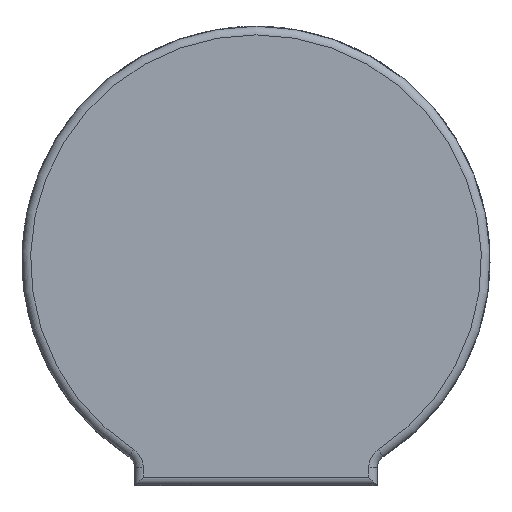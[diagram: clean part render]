
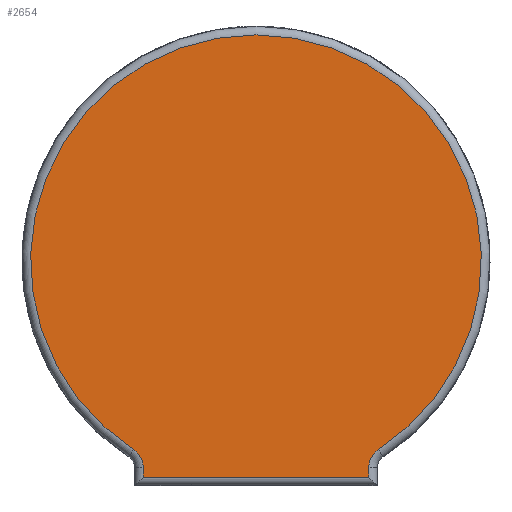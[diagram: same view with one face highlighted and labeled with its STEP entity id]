
A CAD part, front view. The second image highlights one B-rep face of the part: STEP entity #2654.
In plain terms, the highlighted planar face has unit normal (0, -1, 0).
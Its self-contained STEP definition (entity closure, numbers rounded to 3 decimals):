
#72 = CYLINDRICAL_SURFACE('',#73,1.);
#73 = AXIS2_PLACEMENT_3D('',#74,#75,#76);
#74 = CARTESIAN_POINT('',(-13.,-55.,-23.917));
#75 = DIRECTION('',(-0.,-0.,-1.));
#76 = DIRECTION('',(0.,-1.,0.));
#214 = TOROIDAL_SURFACE('',#215,2.5,1.);
#215 = AXIS2_PLACEMENT_3D('',#216,#217,#218);
#216 = CARTESIAN_POINT('',(-15.5,-55.,-23.917));
#217 = DIRECTION('',(-0.,-1.,-0.));
#218 = DIRECTION('',(0.544,-0.,0.839));
#321 = VERTEX_POINT('',#322);
#322 = CARTESIAN_POINT('',(-13.,-56.,-23.917));
#344 = VERTEX_POINT('',#345);
#345 = CARTESIAN_POINT('',(-13.,-56.,-25.));
#365 = CYLINDRICAL_SURFACE('',#366,1.);
#366 = AXIS2_PLACEMENT_3D('',#367,#368,#369);
#367 = CARTESIAN_POINT('',(-14.,-55.,-25.));
#368 = DIRECTION('',(1.,0.,0.));
#369 = DIRECTION('',(0.,-1.,0.));
#382 = EDGE_CURVE('',#321,#344,#383,.T.);
#383 = SURFACE_CURVE('',#384,(#388,#395),.PCURVE_S1.);
#384 = LINE('',#385,#386);
#385 = CARTESIAN_POINT('',(-13.,-56.,-23.917));
#386 = VECTOR('',#387,1.);
#387 = DIRECTION('',(-0.,-0.,-1.));
#388 = PCURVE('',#72,#389);
#389 = DEFINITIONAL_REPRESENTATION('',(#390),#394);
#390 = LINE('',#391,#392);
#391 = CARTESIAN_POINT('',(0.,0.));
#392 = VECTOR('',#393,1.);
#393 = DIRECTION('',(0.,1.));
#394 = ( GEOMETRIC_REPRESENTATION_CONTEXT(2) 
PARAMETRIC_REPRESENTATION_CONTEXT() REPRESENTATION_CONTEXT('2D SPACE',''
  ) );
#395 = PCURVE('',#396,#401);
#396 = PLANE('',#397);
#397 = AXIS2_PLACEMENT_3D('',#398,#399,#400);
#398 = CARTESIAN_POINT('',(-14.,-56.,-26.));
#399 = DIRECTION('',(0.,1.,0.));
#400 = DIRECTION('',(0.,0.,1.));
#401 = DEFINITIONAL_REPRESENTATION('',(#402),#406);
#402 = LINE('',#403,#404);
#403 = CARTESIAN_POINT('',(2.083,1.));
#404 = VECTOR('',#405,1.);
#405 = DIRECTION('',(-1.,-0.));
#406 = ( GEOMETRIC_REPRESENTATION_CONTEXT(2) 
PARAMETRIC_REPRESENTATION_CONTEXT() REPRESENTATION_CONTEXT('2D SPACE',''
  ) );
#1439 = VERTEX_POINT('',#1440);
#1440 = CARTESIAN_POINT('',(-14.14,-56.,-21.819));
#1454 = TOROIDAL_SURFACE('',#1455,26.,1.);
#1455 = AXIS2_PLACEMENT_3D('',#1456,#1457,#1458);
#1456 = CARTESIAN_POINT('',(0.,-55.,0.));
#1457 = DIRECTION('',(0.,1.,0.));
#1458 = DIRECTION('',(0.544,0.,-0.839));
#1465 = EDGE_CURVE('',#1439,#321,#1466,.T.);
#1466 = SURFACE_CURVE('',#1467,(#1472,#1479),.PCURVE_S1.);
#1467 = CIRCLE('',#1468,2.5);
#1468 = AXIS2_PLACEMENT_3D('',#1469,#1470,#1471);
#1469 = CARTESIAN_POINT('',(-15.5,-56.,-23.917));
#1470 = DIRECTION('',(0.,1.,0.));
#1471 = DIRECTION('',(0.544,-0.,0.839));
#1472 = PCURVE('',#214,#1473);
#1473 = DEFINITIONAL_REPRESENTATION('',(#1474),#1478);
#1474 = LINE('',#1475,#1476);
#1475 = CARTESIAN_POINT('',(-0.,1.571));
#1476 = VECTOR('',#1477,1.);
#1477 = DIRECTION('',(-1.,0.));
#1478 = ( GEOMETRIC_REPRESENTATION_CONTEXT(2) 
PARAMETRIC_REPRESENTATION_CONTEXT() REPRESENTATION_CONTEXT('2D SPACE',''
  ) );
#1479 = PCURVE('',#396,#1480);
#1480 = DEFINITIONAL_REPRESENTATION('',(#1481),#1485);
#1481 = CIRCLE('',#1482,2.5);
#1482 = AXIS2_PLACEMENT_2D('',#1483,#1484);
#1483 = CARTESIAN_POINT('',(2.083,-1.5));
#1484 = DIRECTION('',(0.839,0.544));
#1485 = ( GEOMETRIC_REPRESENTATION_CONTEXT(2) 
PARAMETRIC_REPRESENTATION_CONTEXT() REPRESENTATION_CONTEXT('2D SPACE',''
  ) );
#2654 = ADVANCED_FACE('',(#2655),#396,.F.);
#2655 = FACE_BOUND('',#2656,.F.);
#2656 = EDGE_LOOP('',(#2657,#2687,#2708,#2709,#2710,#2738));
#2657 = ORIENTED_EDGE('',*,*,#2658,.F.);
#2658 = EDGE_CURVE('',#2659,#2661,#2663,.T.);
#2659 = VERTEX_POINT('',#2660);
#2660 = CARTESIAN_POINT('',(13.,-56.,-25.));
#2661 = VERTEX_POINT('',#2662);
#2662 = CARTESIAN_POINT('',(13.,-56.,-23.917));
#2663 = SURFACE_CURVE('',#2664,(#2668,#2675),.PCURVE_S1.);
#2664 = LINE('',#2665,#2666);
#2665 = CARTESIAN_POINT('',(13.,-56.,-26.));
#2666 = VECTOR('',#2667,1.);
#2667 = DIRECTION('',(0.,0.,1.));
#2668 = PCURVE('',#396,#2669);
#2669 = DEFINITIONAL_REPRESENTATION('',(#2670),#2674);
#2670 = LINE('',#2671,#2672);
#2671 = CARTESIAN_POINT('',(0.,27.));
#2672 = VECTOR('',#2673,1.);
#2673 = DIRECTION('',(1.,0.));
#2674 = ( GEOMETRIC_REPRESENTATION_CONTEXT(2) 
PARAMETRIC_REPRESENTATION_CONTEXT() REPRESENTATION_CONTEXT('2D SPACE',''
  ) );
#2675 = PCURVE('',#2676,#2681);
#2676 = CYLINDRICAL_SURFACE('',#2677,1.);
#2677 = AXIS2_PLACEMENT_3D('',#2678,#2679,#2680);
#2678 = CARTESIAN_POINT('',(13.,-55.,-26.));
#2679 = DIRECTION('',(0.,0.,1.));
#2680 = DIRECTION('',(0.,-1.,0.));
#2681 = DEFINITIONAL_REPRESENTATION('',(#2682),#2686);
#2682 = LINE('',#2683,#2684);
#2683 = CARTESIAN_POINT('',(0.,0.));
#2684 = VECTOR('',#2685,1.);
#2685 = DIRECTION('',(0.,1.));
#2686 = ( GEOMETRIC_REPRESENTATION_CONTEXT(2) 
PARAMETRIC_REPRESENTATION_CONTEXT() REPRESENTATION_CONTEXT('2D SPACE',''
  ) );
#2687 = ORIENTED_EDGE('',*,*,#2688,.F.);
#2688 = EDGE_CURVE('',#344,#2659,#2689,.T.);
#2689 = SURFACE_CURVE('',#2690,(#2694,#2701),.PCURVE_S1.);
#2690 = LINE('',#2691,#2692);
#2691 = CARTESIAN_POINT('',(-14.,-56.,-25.));
#2692 = VECTOR('',#2693,1.);
#2693 = DIRECTION('',(1.,0.,0.));
#2694 = PCURVE('',#396,#2695);
#2695 = DEFINITIONAL_REPRESENTATION('',(#2696),#2700);
#2696 = LINE('',#2697,#2698);
#2697 = CARTESIAN_POINT('',(1.,0.));
#2698 = VECTOR('',#2699,1.);
#2699 = DIRECTION('',(0.,1.));
#2700 = ( GEOMETRIC_REPRESENTATION_CONTEXT(2) 
PARAMETRIC_REPRESENTATION_CONTEXT() REPRESENTATION_CONTEXT('2D SPACE',''
  ) );
#2701 = PCURVE('',#365,#2702);
#2702 = DEFINITIONAL_REPRESENTATION('',(#2703),#2707);
#2703 = LINE('',#2704,#2705);
#2704 = CARTESIAN_POINT('',(0.,0.));
#2705 = VECTOR('',#2706,1.);
#2706 = DIRECTION('',(0.,1.));
#2707 = ( GEOMETRIC_REPRESENTATION_CONTEXT(2) 
PARAMETRIC_REPRESENTATION_CONTEXT() REPRESENTATION_CONTEXT('2D SPACE',''
  ) );
#2708 = ORIENTED_EDGE('',*,*,#382,.F.);
#2709 = ORIENTED_EDGE('',*,*,#1465,.F.);
#2710 = ORIENTED_EDGE('',*,*,#2711,.F.);
#2711 = EDGE_CURVE('',#2712,#1439,#2714,.T.);
#2712 = VERTEX_POINT('',#2713);
#2713 = CARTESIAN_POINT('',(14.14,-56.,-21.819));
#2714 = SURFACE_CURVE('',#2715,(#2720,#2731),.PCURVE_S1.);
#2715 = CIRCLE('',#2716,26.);
#2716 = AXIS2_PLACEMENT_3D('',#2717,#2718,#2719);
#2717 = CARTESIAN_POINT('',(0.,-56.,0.));
#2718 = DIRECTION('',(0.,-1.,-0.));
#2719 = DIRECTION('',(0.544,0.,-0.839));
#2720 = PCURVE('',#396,#2721);
#2721 = DEFINITIONAL_REPRESENTATION('',(#2722),#2730);
#2722 = ( BOUNDED_CURVE() B_SPLINE_CURVE(2,(#2723,#2724,#2725,#2726,
#2727,#2728,#2729),.UNSPECIFIED.,.T.,.F.) B_SPLINE_CURVE_WITH_KNOTS((1,2
    ,2,2,2,1),(-2.094,0.,2.094,4.189,
6.283,8.378),.UNSPECIFIED.) CURVE() 
GEOMETRIC_REPRESENTATION_ITEM() RATIONAL_B_SPLINE_CURVE((1.,0.5,1.,0.5,
1.,0.5,1.)) REPRESENTATION_ITEM('') );
#2723 = CARTESIAN_POINT('',(4.181,28.14));
#2724 = CARTESIAN_POINT('',(28.673,65.931));
#2725 = CARTESIAN_POINT('',(49.155,25.825));
#2726 = CARTESIAN_POINT('',(69.637,-14.281));
#2727 = CARTESIAN_POINT('',(24.663,-11.966));
#2728 = CARTESIAN_POINT('',(-20.31,-9.651));
#2729 = CARTESIAN_POINT('',(4.181,28.14));
#2730 = ( GEOMETRIC_REPRESENTATION_CONTEXT(2) 
PARAMETRIC_REPRESENTATION_CONTEXT() REPRESENTATION_CONTEXT('2D SPACE',''
  ) );
#2731 = PCURVE('',#1454,#2732);
#2732 = DEFINITIONAL_REPRESENTATION('',(#2733),#2737);
#2733 = LINE('',#2734,#2735);
#2734 = CARTESIAN_POINT('',(-0.,4.712));
#2735 = VECTOR('',#2736,1.);
#2736 = DIRECTION('',(-1.,0.));
#2737 = ( GEOMETRIC_REPRESENTATION_CONTEXT(2) 
PARAMETRIC_REPRESENTATION_CONTEXT() REPRESENTATION_CONTEXT('2D SPACE',''
  ) );
#2738 = ORIENTED_EDGE('',*,*,#2739,.F.);
#2739 = EDGE_CURVE('',#2661,#2712,#2740,.T.);
#2740 = SURFACE_CURVE('',#2741,(#2746,#2753),.PCURVE_S1.);
#2741 = CIRCLE('',#2742,2.5);
#2742 = AXIS2_PLACEMENT_3D('',#2743,#2744,#2745);
#2743 = CARTESIAN_POINT('',(15.5,-56.,-23.917));
#2744 = DIRECTION('',(0.,1.,0.));
#2745 = DIRECTION('',(-1.,0.,0.));
#2746 = PCURVE('',#396,#2747);
#2747 = DEFINITIONAL_REPRESENTATION('',(#2748),#2752);
#2748 = CIRCLE('',#2749,2.5);
#2749 = AXIS2_PLACEMENT_2D('',#2750,#2751);
#2750 = CARTESIAN_POINT('',(2.083,29.5));
#2751 = DIRECTION('',(0.,-1.));
#2752 = ( GEOMETRIC_REPRESENTATION_CONTEXT(2) 
PARAMETRIC_REPRESENTATION_CONTEXT() REPRESENTATION_CONTEXT('2D SPACE',''
  ) );
#2753 = PCURVE('',#2754,#2759);
#2754 = TOROIDAL_SURFACE('',#2755,2.5,1.);
#2755 = AXIS2_PLACEMENT_3D('',#2756,#2757,#2758);
#2756 = CARTESIAN_POINT('',(15.5,-55.,-23.917));
#2757 = DIRECTION('',(-0.,-1.,-0.));
#2758 = DIRECTION('',(-1.,0.,0.));
#2759 = DEFINITIONAL_REPRESENTATION('',(#2760),#2764);
#2760 = LINE('',#2761,#2762);
#2761 = CARTESIAN_POINT('',(-0.,1.571));
#2762 = VECTOR('',#2763,1.);
#2763 = DIRECTION('',(-1.,0.));
#2764 = ( GEOMETRIC_REPRESENTATION_CONTEXT(2) 
PARAMETRIC_REPRESENTATION_CONTEXT() REPRESENTATION_CONTEXT('2D SPACE',''
  ) );
